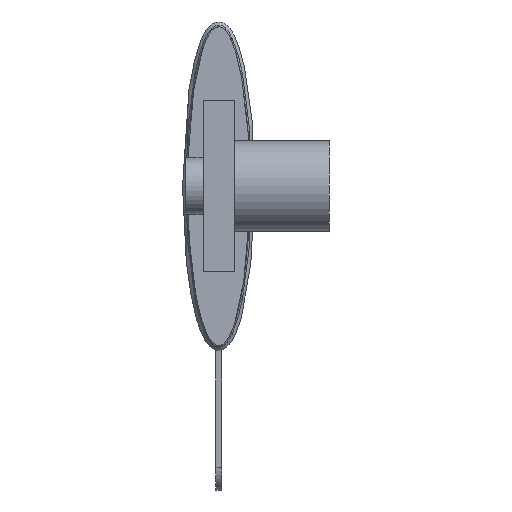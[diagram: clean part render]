
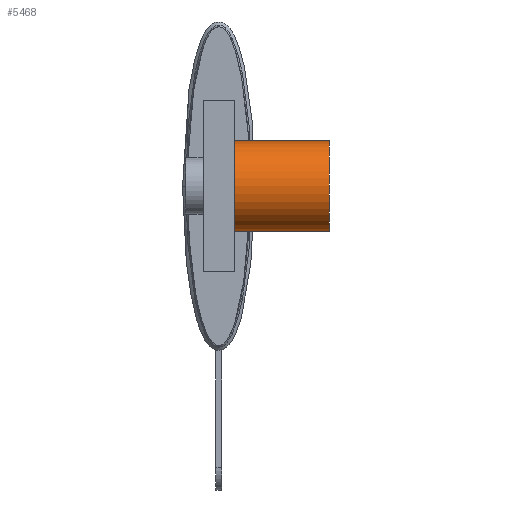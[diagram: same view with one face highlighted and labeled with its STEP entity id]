
A CAD part, left-side view. The second image highlights one B-rep face of the part: STEP entity #5468.
In plain terms, the highlighted cylindrical face has radius 3.97 mm (diameter 7.94 mm), a partial arc.
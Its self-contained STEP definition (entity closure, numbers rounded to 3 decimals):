
#37 = AXIS2_PLACEMENT_3D ( 'NONE', #629, #625, #622 ) ;
#39 = CIRCLE ( 'NONE', #37, 3.97 ) ;
#622 = DIRECTION ( 'NONE',  ( 0., 0., 1. ) ) ;
#625 = DIRECTION ( 'NONE',  ( 0., 1., 0. ) ) ;
#629 = CARTESIAN_POINT ( 'NONE',  ( -34.925, -9.735, 0. ) ) ;
#636 = DIRECTION ( 'NONE',  ( 0., 1., 0. ) ) ;
#638 = CARTESIAN_POINT ( 'NONE',  ( -34.925, -31.375, -3.97 ) ) ;
#643 = LINE ( 'NONE', #638, #1587 ) ;
#826 = VERTEX_POINT ( 'NONE', #3220 ) ;
#1040 = CARTESIAN_POINT ( 'NONE',  ( -34.925, -1.375, 3.97 ) ) ;
#1082 = DIRECTION ( 'NONE',  ( 0., 0., 1. ) ) ;
#1090 = DIRECTION ( 'NONE',  ( 0., 1., 0. ) ) ;
#1091 = CARTESIAN_POINT ( 'NONE',  ( -34.925, -31.375, 0. ) ) ;
#1093 = CYLINDRICAL_SURFACE ( 'NONE', #1592, 3.97 ) ;
#1097 = FACE_OUTER_BOUND ( 'NONE', #5490, .T. ) ;
#1115 = VERTEX_POINT ( 'NONE', #2681 ) ;
#1587 = VECTOR ( 'NONE', #636, 1000. ) ;
#1592 = AXIS2_PLACEMENT_3D ( 'NONE', #1091, #1090, #1082 ) ;
#1874 = ORIENTED_EDGE ( 'NONE', *, *, #5556, .F. ) ;
#1882 = ORIENTED_EDGE ( 'NONE', *, *, #3603, .T. ) ;
#1890 = ORIENTED_EDGE ( 'NONE', *, *, #4229, .T. ) ;
#1895 = ORIENTED_EDGE ( 'NONE', *, *, #4727, .T. ) ;
#1941 = VECTOR ( 'NONE', #4708, 1000. ) ;
#2465 = VERTEX_POINT ( 'NONE', #1040 ) ;
#2681 = CARTESIAN_POINT ( 'NONE',  ( -34.925, -1.375, -3.97 ) ) ;
#3220 = CARTESIAN_POINT ( 'NONE',  ( -34.925, -9.735, -3.97 ) ) ;
#3340 = DIRECTION ( 'NONE',  ( 0., 0., 1. ) ) ;
#3341 = DIRECTION ( 'NONE',  ( 0., -1., 0. ) ) ;
#3342 = CARTESIAN_POINT ( 'NONE',  ( -34.925, -1.375, 0. ) ) ;
#3603 = EDGE_CURVE ( 'NONE', #826, #4637, #39, .T. ) ;
#3750 = CARTESIAN_POINT ( 'NONE',  ( -34.925, -9.735, 3.97 ) ) ;
#4229 = EDGE_CURVE ( 'NONE', #4637, #2465, #4715, .T. ) ;
#4320 = AXIS2_PLACEMENT_3D ( 'NONE', #3342, #3341, #3340 ) ;
#4348 = CIRCLE ( 'NONE', #4320, 3.97 ) ;
#4637 = VERTEX_POINT ( 'NONE', #3750 ) ;
#4708 = DIRECTION ( 'NONE',  ( 0., 1., 0. ) ) ;
#4710 = CARTESIAN_POINT ( 'NONE',  ( -34.925, -31.375, 3.97 ) ) ;
#4715 = LINE ( 'NONE', #4710, #1941 ) ;
#4727 = EDGE_CURVE ( 'NONE', #2465, #1115, #4348, .T. ) ;
#5468 = ADVANCED_FACE ( 'NONE', ( #1097 ), #1093, .T. ) ;
#5490 = EDGE_LOOP ( 'NONE', ( #1874, #1882, #1890, #1895 ) ) ;
#5556 = EDGE_CURVE ( 'NONE', #826, #1115, #643, .T. ) ;
